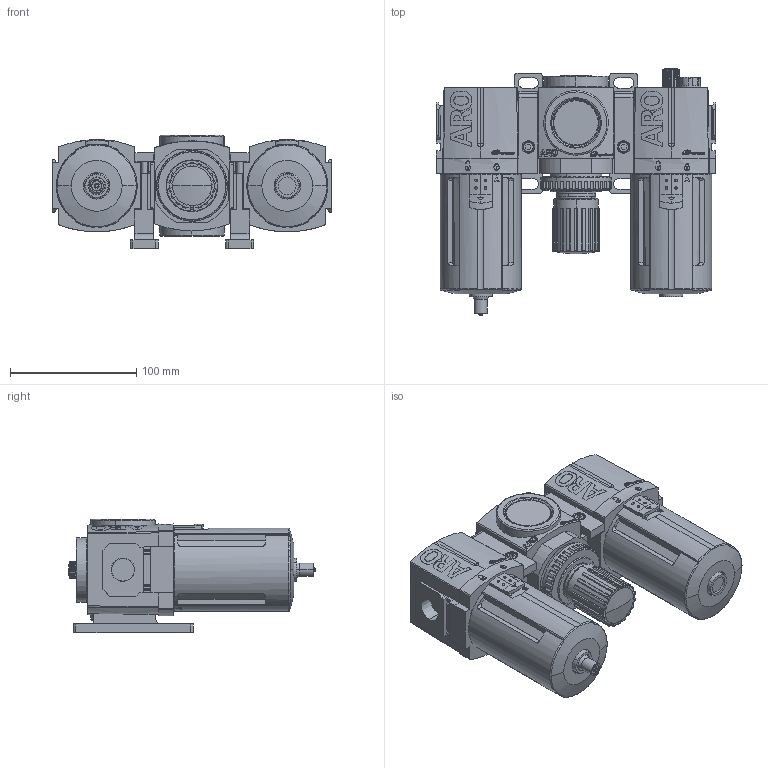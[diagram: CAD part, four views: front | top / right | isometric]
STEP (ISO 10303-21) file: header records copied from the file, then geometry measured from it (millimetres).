
FILE_DESCRIPTION(/* description */ (''),/* implementation_level */ '2;1');
FILE_NAME(/* name */ 'C383X1-80X_01',/* time_stamp */ '2009-02-06T14:17:23-05:00',/* author */ (''),/* organization */ (''),/* preprocessor_version */ 'ST-DEVELOPER v9',/* originating_system */ 'UGS - NX 4.0',/* authorisation */ '');
FILE_SCHEMA (('AUTOMOTIVE_DESIGN { 1 0 10303 214 1 1 1 1 }'));
Products named in the file (1): szeeA340nhqg
Bounding box: 220.8 x 194.88 x 89.8 mm (x, y, z)
Volume: 1572507.3 mm3; surface area: 258760.6 mm2
Topology: 6 solids, 6 shells, 3946 faces, 10322 edges, 6697 vertices
Faces by surface type: plane 2527, cylinder 761, extrusion 213, cone 184, bspline 116, torus 91, sphere 54
Full cylindrical faces by diameter (mm): 3.3 x1, 53.516 x1
Entity records: 170796 total; most frequent: CARTESIAN_POINT 48071, ORIENTED_EDGE 20526, DIRECTION 18266, EDGE_CURVE 10263, VECTOR 6750, VERTEX_POINT 6692, LINE 6537, AXIS2_PLACEMENT_3D 5758
